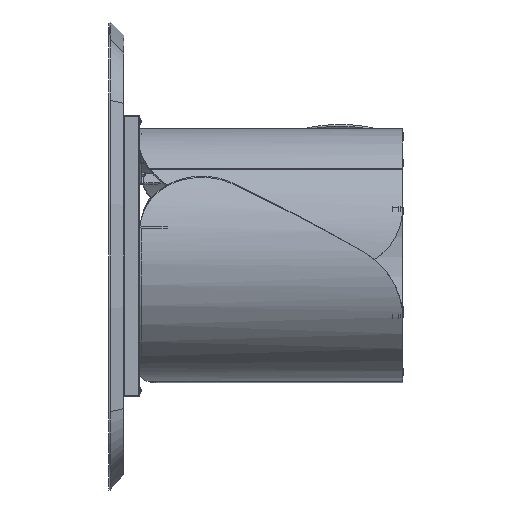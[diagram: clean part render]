
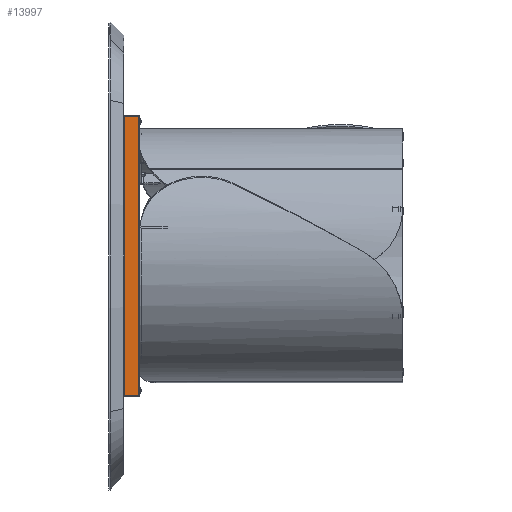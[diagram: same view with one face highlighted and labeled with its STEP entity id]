
A CAD part, left-side view. The second image highlights one B-rep face of the part: STEP entity #13997.
In plain terms, the highlighted planar face has unit normal (-1, 0, 0).
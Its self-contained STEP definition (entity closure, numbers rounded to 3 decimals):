
#285 = DIRECTION ( 'NONE',  ( 1., 0., 0. ) ) ;
#527 = PLANE ( 'NONE',  #21968 ) ;
#1498 = LINE ( 'NONE', #7447, #15122 ) ;
#1651 = EDGE_CURVE ( 'NONE', #17321, #12717, #4587, .T. ) ;
#1874 = CARTESIAN_POINT ( 'NONE',  ( -805., 38., 358. ) ) ;
#3608 = VECTOR ( 'NONE', #19832, 1000. ) ;
#3686 = VERTEX_POINT ( 'NONE', #1874 ) ;
#4027 = DIRECTION ( 'NONE',  ( 0., 0., 1. ) ) ;
#4449 = EDGE_LOOP ( 'NONE', ( #7639, #15463, #8214, #21982 ) ) ;
#4587 = LINE ( 'NONE', #14183, #23595 ) ;
#6531 = EDGE_CURVE ( 'NONE', #3686, #17321, #6566, .T. ) ;
#6566 = LINE ( 'NONE', #13845, #3608 ) ;
#7447 = CARTESIAN_POINT ( 'NONE',  ( -805., 40., 358. ) ) ;
#7639 = ORIENTED_EDGE ( 'NONE', *, *, #6531, .T. ) ;
#8214 = ORIENTED_EDGE ( 'NONE', *, *, #21605, .T. ) ;
#12261 = VECTOR ( 'NONE', #4027, 1000. ) ;
#12717 = VERTEX_POINT ( 'NONE', #14903 ) ;
#13845 = CARTESIAN_POINT ( 'NONE',  ( -805., 38., -360. ) ) ;
#13997 = ADVANCED_FACE ( 'NONE', ( #18805 ), #527, .F. ) ;
#14183 = CARTESIAN_POINT ( 'NONE',  ( -805., 40., -358. ) ) ;
#14903 = CARTESIAN_POINT ( 'NONE',  ( -805., 2., -358. ) ) ;
#15122 = VECTOR ( 'NONE', #22058, 1000. ) ;
#15148 = DIRECTION ( 'NONE',  ( 0., 0., -1. ) ) ;
#15463 = ORIENTED_EDGE ( 'NONE', *, *, #1651, .T. ) ;
#15679 = CARTESIAN_POINT ( 'NONE',  ( -805., 2., 358. ) ) ;
#16921 = LINE ( 'NONE', #20697, #12261 ) ;
#16966 = CARTESIAN_POINT ( 'NONE',  ( -805., 40., 360. ) ) ;
#17321 = VERTEX_POINT ( 'NONE', #22199 ) ;
#18805 = FACE_OUTER_BOUND ( 'NONE', #4449, .T. ) ;
#19832 = DIRECTION ( 'NONE',  ( 0., 0., -1. ) ) ;
#20697 = CARTESIAN_POINT ( 'NONE',  ( -805., 2., 360. ) ) ;
#21605 = EDGE_CURVE ( 'NONE', #12717, #22345, #16921, .T. ) ;
#21606 = DIRECTION ( 'NONE',  ( 0., -1., 0. ) ) ;
#21968 = AXIS2_PLACEMENT_3D ( 'NONE', #16966, #285, #15148 ) ;
#21982 = ORIENTED_EDGE ( 'NONE', *, *, #23639, .T. ) ;
#22058 = DIRECTION ( 'NONE',  ( 0., 1., 0. ) ) ;
#22199 = CARTESIAN_POINT ( 'NONE',  ( -805., 38., -358. ) ) ;
#22345 = VERTEX_POINT ( 'NONE', #15679 ) ;
#23595 = VECTOR ( 'NONE', #21606, 1000. ) ;
#23639 = EDGE_CURVE ( 'NONE', #22345, #3686, #1498, .T. ) ;
